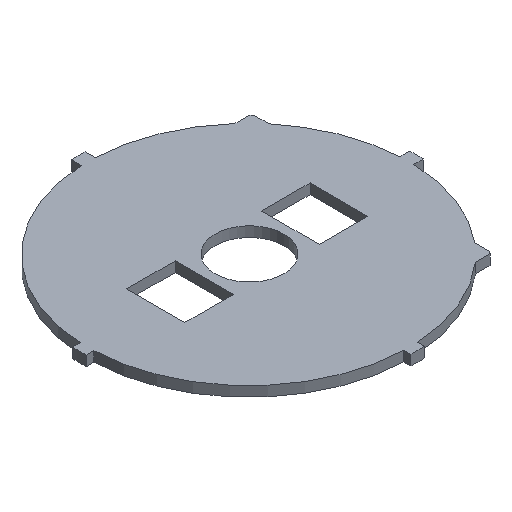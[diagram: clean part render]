
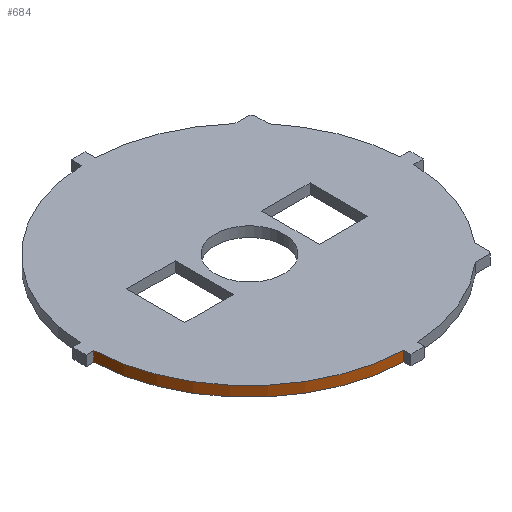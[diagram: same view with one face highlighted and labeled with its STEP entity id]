
A CAD part, isometric view. The second image highlights one B-rep face of the part: STEP entity #684.
In plain terms, the highlighted cylindrical face has radius 39.7 mm (diameter 79.4 mm), a partial arc.
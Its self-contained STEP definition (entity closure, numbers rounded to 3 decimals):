
#60=FACE_OUTER_BOUND('',#95,.T.);
#95=EDGE_LOOP('',(#524,#525,#526,#527));
#151=LINE('',#1078,#224);
#153=LINE('',#1084,#226);
#224=VECTOR('',#881,10.);
#226=VECTOR('',#887,10.);
#283=CIRCLE('',#752,39.7);
#284=CIRCLE('',#753,39.7);
#325=VERTEX_POINT('',#1075);
#326=VERTEX_POINT('',#1077);
#327=VERTEX_POINT('',#1081);
#328=VERTEX_POINT('',#1083);
#407=EDGE_CURVE('',#325,#326,#151,.T.);
#409=EDGE_CURVE('',#327,#325,#283,.T.);
#410=EDGE_CURVE('',#327,#328,#153,.T.);
#411=EDGE_CURVE('',#326,#328,#284,.T.);
#524=ORIENTED_EDGE('',*,*,#409,.F.);
#525=ORIENTED_EDGE('',*,*,#410,.T.);
#526=ORIENTED_EDGE('',*,*,#411,.F.);
#527=ORIENTED_EDGE('',*,*,#407,.F.);
#663=CYLINDRICAL_SURFACE('',#751,39.7);
#684=ADVANCED_FACE('',(#60),#663,.T.);
#751=AXIS2_PLACEMENT_3D('',#1080,#883,#884);
#752=AXIS2_PLACEMENT_3D('',#1082,#885,#886);
#753=AXIS2_PLACEMENT_3D('',#1085,#888,#889);
#881=DIRECTION('',(0.,0.,-1.));
#883=DIRECTION('center_axis',(0.,0.,-1.));
#884=DIRECTION('ref_axis',(-0.999,-0.037,0.));
#885=DIRECTION('center_axis',(0.,0.,
1.));
#886=DIRECTION('ref_axis',(-0.999,-0.037,0.));
#887=DIRECTION('',(0.,0.,-1.));
#888=DIRECTION('center_axis',(0.,0.,
-1.));
#889=DIRECTION('ref_axis',(-0.999,-0.037,0.));
#1075=CARTESIAN_POINT('',(-1.533,-40.059,-17.5));
#1077=CARTESIAN_POINT('',(-1.533,-40.059,-20.));
#1078=CARTESIAN_POINT('',(-1.533,-40.059,0.));
#1080=CARTESIAN_POINT('Origin',(-0.25,-0.38,0.));
#1081=CARTESIAN_POINT('',(-39.922,-1.867,-17.5));
#1082=CARTESIAN_POINT('Origin',(-0.25,-0.38,-17.5));
#1083=CARTESIAN_POINT('',(-39.922,-1.867,-20.));
#1084=CARTESIAN_POINT('',(-39.922,-1.867,0.));
#1085=CARTESIAN_POINT('Origin',(-0.25,-0.38,-20.));
